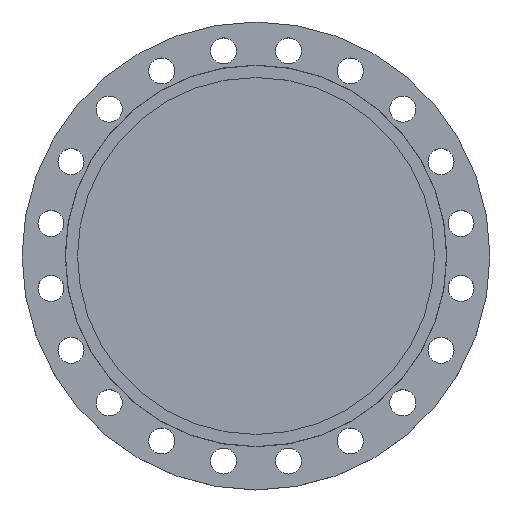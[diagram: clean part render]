
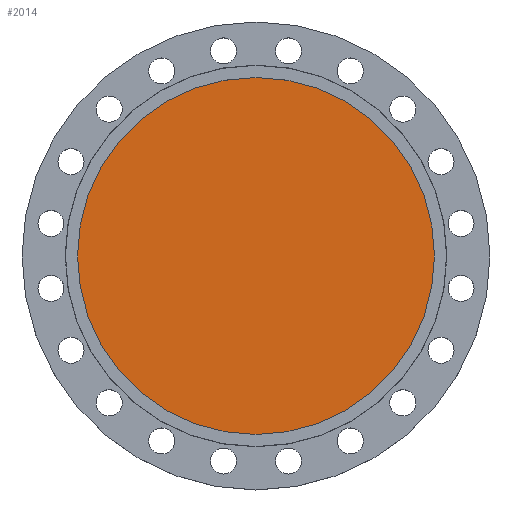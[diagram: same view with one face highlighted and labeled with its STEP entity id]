
A CAD part, top view. The second image highlights one B-rep face of the part: STEP entity #2014.
In plain terms, the highlighted planar face has unit normal (0, 0, 1).
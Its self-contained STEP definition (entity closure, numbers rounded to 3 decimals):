
#112 = CIRCLE ( 'NONE', #114, 288. ) ;
#114 = AXIS2_PLACEMENT_3D ( 'NONE', #582, #1167, #1825 ) ;
#238 = CARTESIAN_POINT ( 'NONE',  ( 288., 0., -5. ) ) ;
#256 = DIRECTION ( 'NONE',  ( 1., 0., 0. ) ) ;
#427 = PLANE ( 'NONE',  #1170 ) ;
#485 = ORIENTED_EDGE ( 'NONE', *, *, #907, .F. ) ;
#487 = ORIENTED_EDGE ( 'NONE', *, *, #1494, .F. ) ;
#582 = CARTESIAN_POINT ( 'NONE',  ( 0., 0., -5. ) ) ;
#695 = CARTESIAN_POINT ( 'NONE',  ( 0., 0., -5. ) ) ;
#810 = CIRCLE ( 'NONE', #843, 288. ) ;
#843 = AXIS2_PLACEMENT_3D ( 'NONE', #695, #1253, #1922 ) ;
#907 = EDGE_CURVE ( 'NONE', #1592, #1477, #112, .T. ) ;
#1066 = CARTESIAN_POINT ( 'NONE',  ( 288., 0., -5. ) ) ;
#1167 = DIRECTION ( 'NONE',  ( 0., 0., -1. ) ) ;
#1170 = AXIS2_PLACEMENT_3D ( 'NONE', #1066, #1683, #256 ) ;
#1253 = DIRECTION ( 'NONE',  ( 0., 0., -1. ) ) ;
#1477 = VERTEX_POINT ( 'NONE', #1585 ) ;
#1494 = EDGE_CURVE ( 'NONE', #1477, #1592, #810, .T. ) ;
#1585 = CARTESIAN_POINT ( 'NONE',  ( -288., 0., -5. ) ) ;
#1592 = VERTEX_POINT ( 'NONE', #238 ) ;
#1669 = EDGE_LOOP ( 'NONE', ( #487, #485 ) ) ;
#1683 = DIRECTION ( 'NONE',  ( 0., 0., 1. ) ) ;
#1825 = DIRECTION ( 'NONE',  ( -1., 0., 0. ) ) ;
#1847 = FACE_OUTER_BOUND ( 'NONE', #1669, .T. ) ;
#1922 = DIRECTION ( 'NONE',  ( -1., 0., 0. ) ) ;
#2014 = ADVANCED_FACE ( 'NONE', ( #1847 ), #427, .T. ) ;
